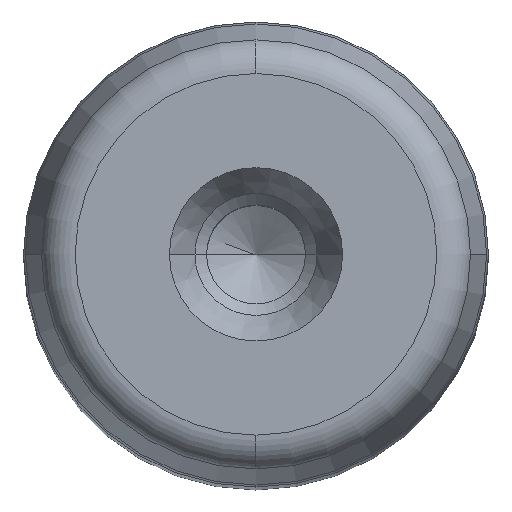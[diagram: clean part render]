
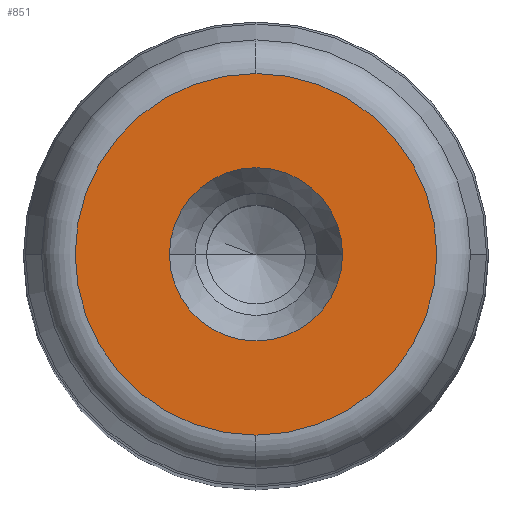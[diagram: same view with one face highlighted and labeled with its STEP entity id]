
A CAD part, top view. The second image highlights one B-rep face of the part: STEP entity #851.
In plain terms, the highlighted planar face has unit normal (0, 0, 1) as drawn and (0, 1, 0) by its records, which use the part's own axes.
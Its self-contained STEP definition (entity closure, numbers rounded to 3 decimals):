
#281=CARTESIAN_POINT('',(7.45,160.0,0.0));
#282=VERTEX_POINT('',#281);
#289=CARTESIAN_POINT('',(-7.45,160.0,0.));
#290=VERTEX_POINT('',#289);
#291=CARTESIAN_POINT('',(0.0,160.0,0.0));
#292=DIRECTION('',(0.0,1.0,0.0));
#293=DIRECTION('',(1.0,0.0,0.0));
#294=AXIS2_PLACEMENT_3D('',#291,#292,#293);
#295=CIRCLE('',#294,7.45);
#296=EDGE_CURVE('',#282,#290,#295,.T.);
#313=CARTESIAN_POINT('',(0.0,160.0,15.554));
#314=VERTEX_POINT('',#313);
#324=CARTESIAN_POINT('',(0.,160.0,-15.554));
#325=VERTEX_POINT('',#324);
#326=CARTESIAN_POINT('',(0.0,160.0,0.0));
#327=DIRECTION('',(0.0,1.0,0.0));
#328=DIRECTION('',(1.0,0.0,0.0));
#329=AXIS2_PLACEMENT_3D('',#326,#327,#328);
#330=CIRCLE('',#329,15.554);
#331=EDGE_CURVE('',#325,#314,#330,.T.);
#812=CARTESIAN_POINT('',(15.554,160.0,0.0));
#813=VERTEX_POINT('',#812);
#814=CARTESIAN_POINT('',(0.0,160.0,0.0));
#815=DIRECTION('',(0.0,1.0,0.0));
#816=DIRECTION('',(1.0,0.0,0.0));
#817=AXIS2_PLACEMENT_3D('',#814,#815,#816);
#818=CIRCLE('',#817,15.554);
#819=EDGE_CURVE('',#813,#325,#818,.T.);
#821=CARTESIAN_POINT('',(0.0,160.0,0.0));
#822=DIRECTION('',(0.0,1.0,0.0));
#823=DIRECTION('',(1.0,0.0,0.0));
#824=AXIS2_PLACEMENT_3D('',#821,#822,#823);
#825=CIRCLE('',#824,15.554);
#826=EDGE_CURVE('',#314,#813,#825,.T.);
#831=CARTESIAN_POINT('',(-17.11,160.0,-17.11));
#832=DIRECTION('',(0.0,1.0,0.0));
#833=DIRECTION('',(0.0,0.0,1.0));
#834=AXIS2_PLACEMENT_3D('',#831,#832,#833);
#835=PLANE('',#834);
#836=ORIENTED_EDGE('',*,*,#819,.T.);
#837=ORIENTED_EDGE('',*,*,#331,.T.);
#838=ORIENTED_EDGE('',*,*,#826,.T.);
#839=EDGE_LOOP('',(#836,#837,#838));
#840=FACE_OUTER_BOUND('',#839,.T.);
#841=ORIENTED_EDGE('',*,*,#296,.F.);
#842=CARTESIAN_POINT('',(0.0,160.0,0.0));
#843=DIRECTION('',(0.0,1.0,0.0));
#844=DIRECTION('',(1.0,0.0,0.0));
#845=AXIS2_PLACEMENT_3D('',#842,#843,#844);
#846=CIRCLE('',#845,7.45);
#847=EDGE_CURVE('',#290,#282,#846,.T.);
#848=ORIENTED_EDGE('',*,*,#847,.F.);
#849=EDGE_LOOP('',(#841,#848));
#850=FACE_BOUND('',#849,.T.);
#851=ADVANCED_FACE('',(#840,#850),#835,.T.);
